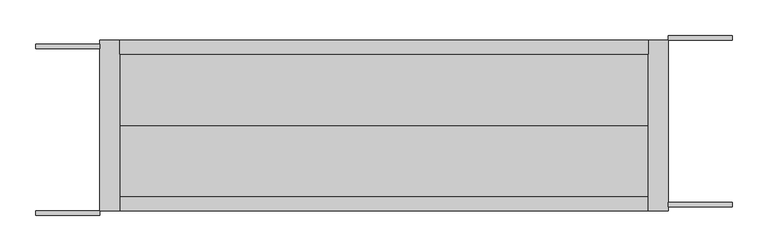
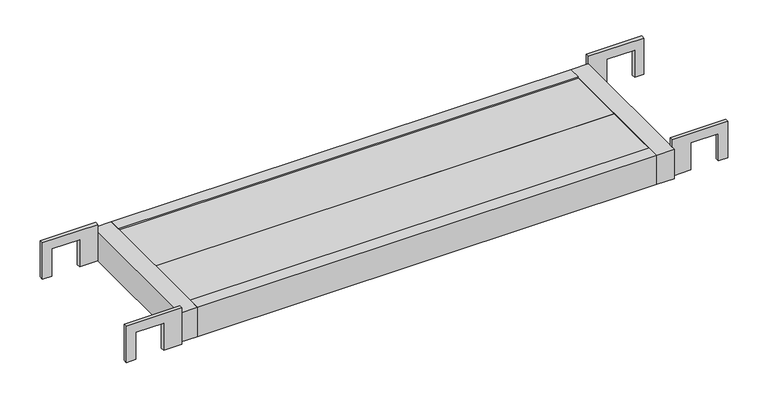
"""IFC4 building model written with IfcOpenShell, lengths in millimetres: proxy geometry, AKK布板HF-209_斜線なし_軽 : 鋼製布板 HF-209."""

from ifc_helpers import new_model, si_unit, frame, origin, place, context, project, spatial, polyline, outline, extrude, source, transform, mapped, element, save


def generic_models_1c8c572c(model_context):
    return source(origin(), model_context, "Body", "SweptSolid", [
        extrude(outline(polyline([(37.5, 855.0), (-24.1, 855.0), (-24.1, 884.5), (22.0, 884.5), (22.0, 929.5), (-24.1, 929.5), (-24.1, 944.5), (37.5, 944.5), (37.5, 855.0)])), frame((0.0, 12.0, 0.0), z_axis=(0.0, 1.0, 0.0), x_axis=(0.0, 0.0, 1.0)), (0.0, 0.0, 1.0), 6.0),
        extrude(outline(polyline([(37.5, 855.0), (-24.1, 855.0), (-24.1, 884.5), (22.0, 884.5), (22.0, 929.5), (-24.1, 929.5), (-24.1, 944.5), (37.5, 944.5), (37.5, 855.0)])), frame((0.0, 246.0, 0.0), z_axis=(0.0, 1.0, 0.0), x_axis=(0.0, 0.0, 1.0)), (0.0, 0.0, 1.0), 6.0),
        extrude(outline(polyline([(37.5, -30.5), (-24.1, -30.5), (-24.1, -15.5), (22.0, -15.5), (22.0, 29.5), (-24.1, 29.5), (-24.1, 59.0), (37.5, 59.0), (37.5, -30.5)])), frame((0.0, 0.0, 0.0), z_axis=(0.0, 1.0, 0.0), x_axis=(0.0, 0.0, 1.0)), (0.0, 0.0, 1.0), 6.0),
        extrude(outline(polyline([(37.5, -30.5), (-24.1, -30.5), (-24.1, -15.5), (22.0, -15.5), (22.0, 29.5), (-24.1, 29.5), (-24.1, 59.0), (37.5, 59.0), (37.5, -30.5)])), frame((0.0, 234.0, 0.0), z_axis=(0.0, 1.0, 0.0), x_axis=(0.0, 0.0, 1.0)), (0.0, 0.0, 1.0), 6.0),
        extrude(outline(polyline([(827.0, 226.0), (827.0, 126.0), (87.0, 126.0), (87.0, 226.0), (827.0, 226.0)])), frame((0.0, 0.0, 17.5), z_axis=(0.0, 0.0, 1.0), x_axis=(1.0, 0.0, 0.0)), (0.0, 0.0, 1.0), 5.0),
        extrude(outline(polyline([(827.0, 126.0), (827.0, 26.0), (87.0, 26.0), (87.0, 126.0), (827.0, 126.0)])), frame((0.0, 0.0, 17.5), z_axis=(0.0, 0.0, 1.0), x_axis=(1.0, 0.0, 0.0)), (0.0, 0.0, 1.0), 5.0),
        extrude(outline(polyline([(827.0, 246.0), (827.0, 226.0), (87.0, 226.0), (87.0, 246.0), (827.0, 246.0)])), frame((0.0, 0.0, -25.0), z_axis=(0.0, 0.0, 1.0), x_axis=(1.0, 0.0, 0.0)), (0.0, 0.0, 1.0), 50.0),
        extrude(outline(polyline([(827.0, 6.0), (827.0, 246.0), (855.0, 246.0), (855.0, 6.0), (827.0, 6.0)])), frame((0.0, 0.0, -25.0), z_axis=(0.0, 0.0, 1.0), x_axis=(1.0, 0.0, 0.0)), (0.0, 0.0, 1.0), 50.0),
        extrude(outline(polyline([(59.0, 6.0), (59.0, 246.0), (87.0, 246.0), (87.0, 6.0), (59.0, 6.0)])), frame((0.0, 0.0, -25.0), z_axis=(0.0, 0.0, 1.0), x_axis=(1.0, 0.0, 0.0)), (0.0, 0.0, 1.0), 50.0),
        extrude(outline(polyline([(827.0, 26.0), (827.0, 6.0), (87.0, 6.0), (87.0, 26.0), (827.0, 26.0)])), frame((0.0, 0.0, -25.0), z_axis=(0.0, 0.0, 1.0), x_axis=(1.0, 0.0, 0.0)), (0.0, 0.0, 1.0), 50.0),
    ])


if __name__ == "__main__":
    model = new_model("IFC4")
    model_context = context("Model", 3, world=origin())
    ifc_project = project(units=[si_unit("LENGTHUNIT", "METRE", prefix="MILLI")], contexts=[model_context])
    site = spatial("IfcSite", under=ifc_project)
    building = spatial("IfcBuilding", under=site)
    placement = place(None, origin())
    generic_models_shape = generic_models_1c8c572c(model_context)
    element("IfcBuildingElementProxy", 1, Name="AKK布板HF-209_斜線なし_軽 : 鋼製布板 HF-209", ObjectType="AKK布板HF-209_斜線なし_軽 : 鋼製布板 HF-209", at=placement, inside=building, context=model_context, shape_type="MappedRepresentation", body=[
        mapped(generic_models_shape, transform((0.0, 0.0, 0.0), x_axis=(1.0, 0.0, 0.0), y_axis=(0.0, 1.0, 0.0), z_axis=(0.0, 0.0, 1.0))),
    ])
    save(model, "model.ifc")
